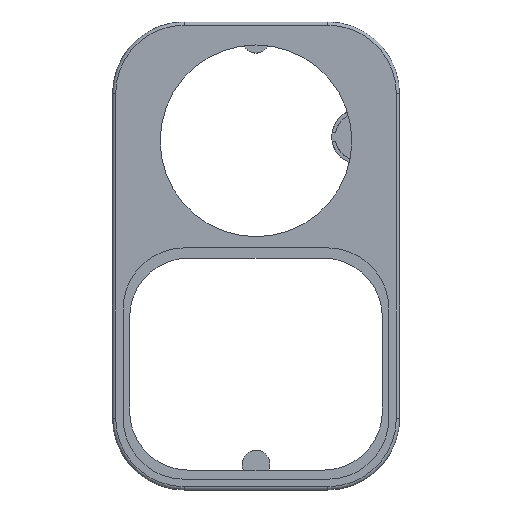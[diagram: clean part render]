
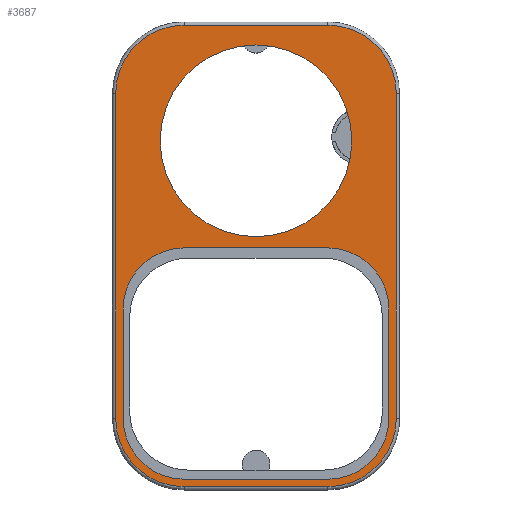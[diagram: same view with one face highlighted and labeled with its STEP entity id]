
A CAD part, top view. The second image highlights one B-rep face of the part: STEP entity #3687.
In plain terms, the highlighted planar face has unit normal (0, 0, 1).
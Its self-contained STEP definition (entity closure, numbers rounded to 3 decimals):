
#3129 = VERTEX_POINT('',#3130);
#3130 = CARTESIAN_POINT('',(0.55,12.5,12.3));
#3139 = VERTEX_POINT('',#3140);
#3140 = CARTESIAN_POINT('',(12.5,0.55,12.3));
#3147 = EDGE_CURVE('',#3129,#3139,#3148,.T.);
#3148 = CIRCLE('',#3149,11.95);
#3149 = AXIS2_PLACEMENT_3D('',#3150,#3151,#3152);
#3150 = CARTESIAN_POINT('',(12.5,12.5,12.3));
#3151 = DIRECTION('',(0.,0.,1.));
#3152 = DIRECTION('',(-1.,0.,0.));
#3163 = VERTEX_POINT('',#3164);
#3164 = CARTESIAN_POINT('',(0.55,69.,12.3));
#3171 = EDGE_CURVE('',#3163,#3129,#3172,.T.);
#3172 = LINE('',#3173,#3174);
#3173 = CARTESIAN_POINT('',(0.55,69.,12.3));
#3174 = VECTOR('',#3175,1.);
#3175 = DIRECTION('',(-0.,-1.,-0.));
#3188 = VERTEX_POINT('',#3189);
#3189 = CARTESIAN_POINT('',(12.5,80.95,12.3));
#3198 = EDGE_CURVE('',#3188,#3163,#3199,.T.);
#3199 = CIRCLE('',#3200,11.95);
#3200 = AXIS2_PLACEMENT_3D('',#3201,#3202,#3203);
#3201 = CARTESIAN_POINT('',(12.5,69.,12.3));
#3202 = DIRECTION('',(0.,-0.,1.));
#3203 = DIRECTION('',(0.,1.,0.));
#3214 = VERTEX_POINT('',#3215);
#3215 = CARTESIAN_POINT('',(37.5,80.95,12.3));
#3222 = EDGE_CURVE('',#3214,#3188,#3223,.T.);
#3223 = LINE('',#3224,#3225);
#3224 = CARTESIAN_POINT('',(37.5,80.95,12.3));
#3225 = VECTOR('',#3226,1.);
#3226 = DIRECTION('',(-1.,-0.,-0.));
#3239 = VERTEX_POINT('',#3240);
#3240 = CARTESIAN_POINT('',(49.45,69.,12.3));
#3249 = EDGE_CURVE('',#3239,#3214,#3250,.T.);
#3250 = CIRCLE('',#3251,11.95);
#3251 = AXIS2_PLACEMENT_3D('',#3252,#3253,#3254);
#3252 = CARTESIAN_POINT('',(37.5,69.,12.3));
#3253 = DIRECTION('',(0.,0.,1.));
#3254 = DIRECTION('',(1.,0.,0.));
#3265 = VERTEX_POINT('',#3266);
#3266 = CARTESIAN_POINT('',(49.45,12.5,12.3));
#3273 = EDGE_CURVE('',#3265,#3239,#3274,.T.);
#3274 = LINE('',#3275,#3276);
#3275 = CARTESIAN_POINT('',(49.45,12.5,12.3));
#3276 = VECTOR('',#3277,1.);
#3277 = DIRECTION('',(0.,1.,0.));
#3290 = VERTEX_POINT('',#3291);
#3291 = CARTESIAN_POINT('',(37.5,0.55,12.3));
#3300 = EDGE_CURVE('',#3290,#3265,#3301,.T.);
#3301 = CIRCLE('',#3302,11.95);
#3302 = AXIS2_PLACEMENT_3D('',#3303,#3304,#3305);
#3303 = CARTESIAN_POINT('',(37.5,12.5,12.3));
#3304 = DIRECTION('',(-0.,0.,1.));
#3305 = DIRECTION('',(0.,-1.,0.));
#3316 = EDGE_CURVE('',#3139,#3290,#3317,.T.);
#3317 = LINE('',#3318,#3319);
#3318 = CARTESIAN_POINT('',(12.5,0.55,12.3));
#3319 = VECTOR('',#3320,1.);
#3320 = DIRECTION('',(1.,0.,0.));
#3471 = VERTEX_POINT('',#3472);
#3472 = CARTESIAN_POINT('',(12.5,1.85,12.3));
#3480 = VERTEX_POINT('',#3481);
#3481 = CARTESIAN_POINT('',(1.85,12.5,12.3));
#3487 = EDGE_CURVE('',#3471,#3480,#3488,.T.);
#3488 = CIRCLE('',#3489,10.65);
#3489 = AXIS2_PLACEMENT_3D('',#3490,#3491,#3492);
#3490 = CARTESIAN_POINT('',(12.5,12.5,12.3));
#3491 = DIRECTION('',(0.,0.,-1.));
#3492 = DIRECTION('',(1.,0.,0.));
#3505 = VERTEX_POINT('',#3506);
#3506 = CARTESIAN_POINT('',(1.85,31.5,12.3));
#3512 = EDGE_CURVE('',#3480,#3505,#3513,.T.);
#3513 = LINE('',#3514,#3515);
#3514 = CARTESIAN_POINT('',(1.85,26.625,12.3));
#3515 = VECTOR('',#3516,1.);
#3516 = DIRECTION('',(0.,1.,0.));
#3528 = EDGE_CURVE('',#3529,#3471,#3531,.T.);
#3529 = VERTEX_POINT('',#3530);
#3530 = CARTESIAN_POINT('',(37.5,1.85,12.3));
#3531 = LINE('',#3532,#3533);
#3532 = CARTESIAN_POINT('',(18.75,1.85,12.3));
#3533 = VECTOR('',#3534,1.);
#3534 = DIRECTION('',(-1.,0.,0.));
#3552 = VERTEX_POINT('',#3553);
#3553 = CARTESIAN_POINT('',(12.5,42.15,12.3));
#3559 = EDGE_CURVE('',#3505,#3552,#3560,.T.);
#3560 = CIRCLE('',#3561,10.65);
#3561 = AXIS2_PLACEMENT_3D('',#3562,#3563,#3564);
#3562 = CARTESIAN_POINT('',(12.5,31.5,12.3));
#3563 = DIRECTION('',(0.,0.,-1.));
#3564 = DIRECTION('',(1.,0.,0.));
#3576 = VERTEX_POINT('',#3577);
#3577 = CARTESIAN_POINT('',(48.15,12.5,12.3));
#3585 = EDGE_CURVE('',#3576,#3529,#3586,.T.);
#3586 = CIRCLE('',#3587,10.65);
#3587 = AXIS2_PLACEMENT_3D('',#3588,#3589,#3590);
#3588 = CARTESIAN_POINT('',(37.5,12.5,12.3));
#3589 = DIRECTION('',(0.,0.,-1.));
#3590 = DIRECTION('',(1.,0.,0.));
#3602 = EDGE_CURVE('',#3603,#3552,#3605,.T.);
#3603 = VERTEX_POINT('',#3604);
#3604 = CARTESIAN_POINT('',(37.5,42.15,12.3));
#3605 = LINE('',#3606,#3607);
#3606 = CARTESIAN_POINT('',(18.75,42.15,12.3));
#3607 = VECTOR('',#3608,1.);
#3608 = DIRECTION('',(-1.,0.,0.));
#3627 = VERTEX_POINT('',#3628);
#3628 = CARTESIAN_POINT('',(48.15,31.5,12.3));
#3634 = EDGE_CURVE('',#3576,#3627,#3635,.T.);
#3635 = LINE('',#3636,#3637);
#3636 = CARTESIAN_POINT('',(48.15,26.625,12.3));
#3637 = VECTOR('',#3638,1.);
#3638 = DIRECTION('',(0.,1.,0.));
#3650 = EDGE_CURVE('',#3603,#3627,#3651,.T.);
#3651 = CIRCLE('',#3652,10.65);
#3652 = AXIS2_PLACEMENT_3D('',#3653,#3654,#3655);
#3653 = CARTESIAN_POINT('',(37.5,31.5,12.3));
#3654 = DIRECTION('',(0.,0.,-1.));
#3655 = DIRECTION('',(1.,0.,0.));
#3668 = VERTEX_POINT('',#3669);
#3669 = CARTESIAN_POINT('',(41.7,60.8,12.3));
#3675 = EDGE_CURVE('',#3668,#3668,#3676,.T.);
#3676 = CIRCLE('',#3677,16.7);
#3677 = AXIS2_PLACEMENT_3D('',#3678,#3679,#3680);
#3678 = CARTESIAN_POINT('',(25.,60.8,12.3));
#3679 = DIRECTION('',(0.,0.,-1.));
#3680 = DIRECTION('',(1.,0.,0.));
#3687 = ADVANCED_FACE('',(#3688,#3698,#3708),#3711,.T.);
#3688 = FACE_BOUND('',#3689,.T.);
#3689 = EDGE_LOOP('',(#3690,#3691,#3692,#3693,#3694,#3695,#3696,#3697));
#3690 = ORIENTED_EDGE('',*,*,#3147,.T.);
#3691 = ORIENTED_EDGE('',*,*,#3316,.T.);
#3692 = ORIENTED_EDGE('',*,*,#3300,.T.);
#3693 = ORIENTED_EDGE('',*,*,#3273,.T.);
#3694 = ORIENTED_EDGE('',*,*,#3249,.T.);
#3695 = ORIENTED_EDGE('',*,*,#3222,.T.);
#3696 = ORIENTED_EDGE('',*,*,#3198,.T.);
#3697 = ORIENTED_EDGE('',*,*,#3171,.T.);
#3698 = FACE_BOUND('',#3699,.T.);
#3699 = EDGE_LOOP('',(#3700,#3701,#3702,#3703,#3704,#3705,#3706,#3707));
#3700 = ORIENTED_EDGE('',*,*,#3528,.T.);
#3701 = ORIENTED_EDGE('',*,*,#3487,.T.);
#3702 = ORIENTED_EDGE('',*,*,#3512,.T.);
#3703 = ORIENTED_EDGE('',*,*,#3559,.T.);
#3704 = ORIENTED_EDGE('',*,*,#3602,.F.);
#3705 = ORIENTED_EDGE('',*,*,#3650,.T.);
#3706 = ORIENTED_EDGE('',*,*,#3634,.F.);
#3707 = ORIENTED_EDGE('',*,*,#3585,.T.);
#3708 = FACE_BOUND('',#3709,.T.);
#3709 = EDGE_LOOP('',(#3710));
#3710 = ORIENTED_EDGE('',*,*,#3675,.T.);
#3711 = PLANE('',#3712);
#3712 = AXIS2_PLACEMENT_3D('',#3713,#3714,#3715);
#3713 = CARTESIAN_POINT('',(25.,40.75,12.3));
#3714 = DIRECTION('',(0.,0.,1.));
#3715 = DIRECTION('',(1.,0.,0.));
